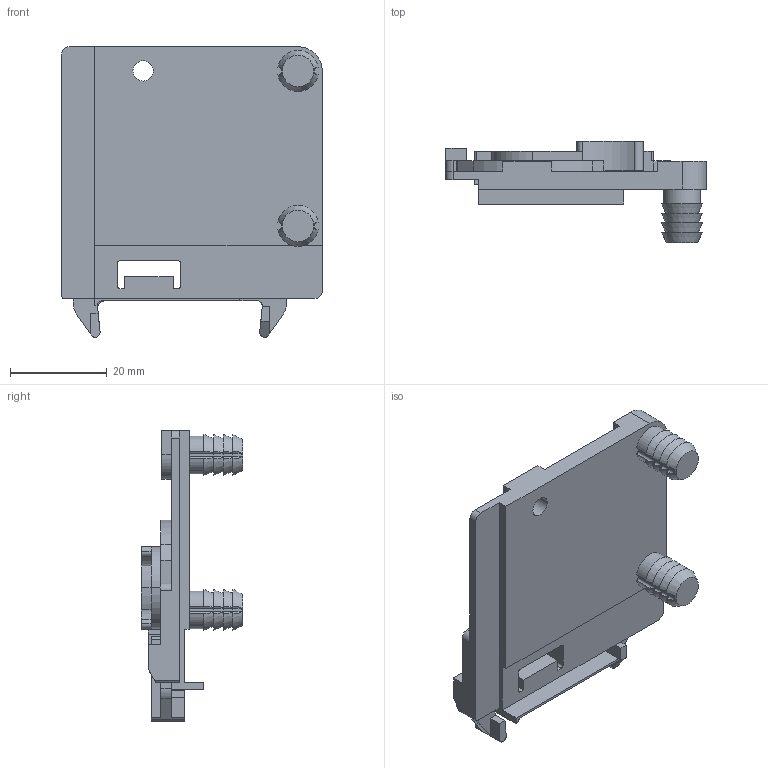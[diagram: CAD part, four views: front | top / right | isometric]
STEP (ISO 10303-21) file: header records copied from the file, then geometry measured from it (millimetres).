
FILE_DESCRIPTION (( 'STEP AP214' ), '1' );
FILE_NAME ('IMOS_Dynapro_Soft-close_Verstelladapter_links mit Dübel.step', '2012-02-01T09:06:44', ( 'Grass' ), ( '' ), 'SwSTEP 2.0', 'SolidWorks 2011', '' );
FILE_SCHEMA (( 'AUTOMOTIVE_DESIGN' ));
Length unit declared in the file: millimetre
Products named in the file (1): IMOS_Dynapro_Soft-close_Verstelladapter_links mit Dübel
Bounding box: 53.8 x 20.9 x 60 mm (x, y, z)
Volume: 14829.7 mm3; surface area: 9425.7 mm2
Topology: 1 solids, 1 shells, 312 faces, 861 edges, 557 vertices
Faces by surface type: plane 184, cylinder 98, cone 30
Entity records: 10224 total; most frequent: CARTESIAN_POINT 2217, ORIENTED_EDGE 1722, DIRECTION 1622, EDGE_CURVE 861, VERTEX_POINT 557, AXIS2_PLACEMENT_3D 546, LINE 530, VECTOR 530
